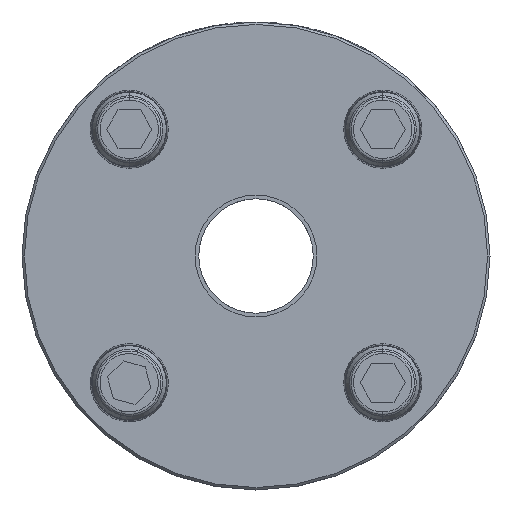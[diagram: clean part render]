
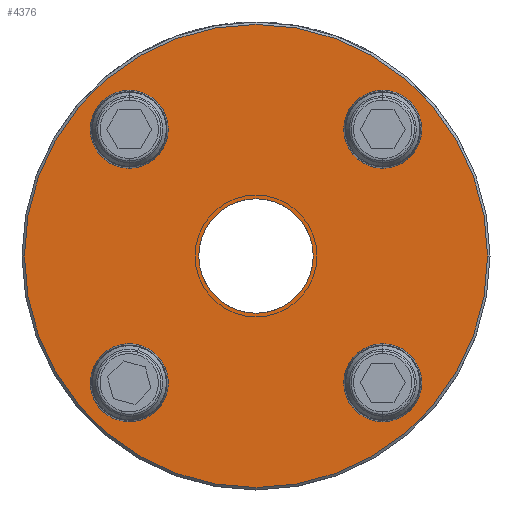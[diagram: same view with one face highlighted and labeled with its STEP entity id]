
A CAD part, front view. The second image highlights one B-rep face of the part: STEP entity #4376.
In plain terms, the highlighted planar face has unit normal (0, -1, 0).
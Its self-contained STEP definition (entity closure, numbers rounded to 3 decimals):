
#1=CARTESIAN_POINT('',(0.,0.,0.));
#2=DIRECTION('',(0.,-1.,0.));
#3=DIRECTION('',(0.,0.,1.));
#4=AXIS2_PLACEMENT_3D('',#1,#2,#3);
#6=CARTESIAN_POINT('',(0.,0.,0.));
#7=DIRECTION('',(0.,-1.,0.));
#8=DIRECTION('',(0.,0.,-1.));
#9=AXIS2_PLACEMENT_3D('',#6,#7,#8);
#11=CARTESIAN_POINT('',(0.,0.,0.));
#12=DIRECTION('',(0.,1.,0.));
#13=DIRECTION('',(1.,0.,0.));
#14=AXIS2_PLACEMENT_3D('',#11,#12,#13);
#16=CARTESIAN_POINT('',(0.,0.,0.));
#17=DIRECTION('',(0.,1.,0.));
#18=DIRECTION('',(-1.,0.,0.));
#19=AXIS2_PLACEMENT_3D('',#16,#17,#18);
#21=CARTESIAN_POINT('',(26.,0.,-26.));
#22=DIRECTION('',(0.,-1.,0.));
#23=DIRECTION('',(1.,0.,0.));
#24=AXIS2_PLACEMENT_3D('',#21,#22,#23);
#26=CARTESIAN_POINT('',(26.,0.,-26.));
#27=DIRECTION('',(0.,-1.,0.));
#28=DIRECTION('',(-1.,0.,0.));
#29=AXIS2_PLACEMENT_3D('',#26,#27,#28);
#31=CARTESIAN_POINT('',(-26.,0.,-26.));
#32=DIRECTION('',(0.,-1.,0.));
#33=DIRECTION('',(1.,0.,0.));
#34=AXIS2_PLACEMENT_3D('',#31,#32,#33);
#36=CARTESIAN_POINT('',(-26.,0.,-26.));
#37=DIRECTION('',(0.,-1.,0.));
#38=DIRECTION('',(-1.,0.,0.));
#39=AXIS2_PLACEMENT_3D('',#36,#37,#38);
#41=CARTESIAN_POINT('',(-26.,0.,26.));
#42=DIRECTION('',(0.,-1.,0.));
#43=DIRECTION('',(1.,0.,0.));
#44=AXIS2_PLACEMENT_3D('',#41,#42,#43);
#46=CARTESIAN_POINT('',(-26.,0.,26.));
#47=DIRECTION('',(0.,-1.,0.));
#48=DIRECTION('',(-1.,0.,0.));
#49=AXIS2_PLACEMENT_3D('',#46,#47,#48);
#51=CARTESIAN_POINT('',(26.,0.,26.));
#52=DIRECTION('',(0.,-1.,0.));
#53=DIRECTION('',(1.,0.,0.));
#54=AXIS2_PLACEMENT_3D('',#51,#52,#53);
#56=CARTESIAN_POINT('',(26.,0.,26.));
#57=DIRECTION('',(0.,-1.,0.));
#58=DIRECTION('',(-1.,0.,0.));
#59=AXIS2_PLACEMENT_3D('',#56,#57,#58);
#3675=CARTESIAN_POINT('',(-47.5,0.,0.));
#3676=VERTEX_POINT('',#3675);
#3677=CARTESIAN_POINT('',(47.5,0.,0.));
#3678=VERTEX_POINT('',#3677);
#4216=CARTESIAN_POINT('',(32.5,0.,-26.));
#4218=VERTEX_POINT('',#4216);
#4223=CARTESIAN_POINT('',(19.5,0.,-26.));
#4224=VERTEX_POINT('',#4223);
#4265=CARTESIAN_POINT('',(32.5,0.,26.));
#4266=VERTEX_POINT('',#4265);
#4267=CARTESIAN_POINT('',(19.5,0.,26.));
#4268=VERTEX_POINT('',#4267);
#4277=CARTESIAN_POINT('',(-19.5,0.,26.));
#4278=VERTEX_POINT('',#4277);
#4279=CARTESIAN_POINT('',(-32.5,0.,26.));
#4280=VERTEX_POINT('',#4279);
#4289=CARTESIAN_POINT('',(-19.5,0.,-26.));
#4290=VERTEX_POINT('',#4289);
#4291=CARTESIAN_POINT('',(-32.5,0.,-26.));
#4292=VERTEX_POINT('',#4291);
#4331=CARTESIAN_POINT('',(0.,0.,11.75));
#4332=CARTESIAN_POINT('',(0.,0.,-11.75));
#4333=VERTEX_POINT('',#4331);
#4334=VERTEX_POINT('',#4332);
#4335=CARTESIAN_POINT('',(0.,0.,0.));
#4336=DIRECTION('',(0.,-1.,0.));
#4337=DIRECTION('',(-1.,0.,0.));
#4338=AXIS2_PLACEMENT_3D('',#4335,#4336,#4337);
#4339=PLANE('',#4338);
#4341=ORIENTED_EDGE('',*,*,#4340,.T.);
#4343=ORIENTED_EDGE('',*,*,#4342,.T.);
#4344=EDGE_LOOP('',(#4341,#4343));
#4345=FACE_OUTER_BOUND('',#4344,.F.);
#4347=ORIENTED_EDGE('',*,*,#4346,.T.);
#4349=ORIENTED_EDGE('',*,*,#4348,.T.);
#4350=EDGE_LOOP('',(#4347,#4349));
#4351=FACE_BOUND('',#4350,.F.);
#4353=ORIENTED_EDGE('',*,*,#4352,.T.);
#4355=ORIENTED_EDGE('',*,*,#4354,.T.);
#4356=EDGE_LOOP('',(#4353,#4355));
#4357=FACE_BOUND('',#4356,.F.);
#4359=ORIENTED_EDGE('',*,*,#4358,.T.);
#4361=ORIENTED_EDGE('',*,*,#4360,.T.);
#4362=EDGE_LOOP('',(#4359,#4361));
#4363=FACE_BOUND('',#4362,.F.);
#4365=ORIENTED_EDGE('',*,*,#4364,.T.);
#4367=ORIENTED_EDGE('',*,*,#4366,.T.);
#4368=EDGE_LOOP('',(#4365,#4367));
#4369=FACE_BOUND('',#4368,.F.);
#4371=ORIENTED_EDGE('',*,*,#4370,.T.);
#4373=ORIENTED_EDGE('',*,*,#4372,.T.);
#4374=EDGE_LOOP('',(#4371,#4373));
#4375=FACE_BOUND('',#4374,.F.);
#4376=ADVANCED_FACE('',(#4345,#4351,#4357,#4363,#4369,#4375),#4339,.T.);
#5=CIRCLE('',#4,11.75);
#10=CIRCLE('',#9,11.75);
#15=CIRCLE('',#14,47.5);
#20=CIRCLE('',#19,47.5);
#25=CIRCLE('',#24,6.5);
#30=CIRCLE('',#29,6.5);
#35=CIRCLE('',#34,6.5);
#40=CIRCLE('',#39,6.5);
#45=CIRCLE('',#44,6.5);
#50=CIRCLE('',#49,6.5);
#55=CIRCLE('',#54,6.5);
#60=CIRCLE('',#59,6.5);
#4340=EDGE_CURVE('',#3678,#3676,#15,.T.);
#4342=EDGE_CURVE('',#3676,#3678,#20,.T.);
#4346=EDGE_CURVE('',#4333,#4334,#5,.T.);
#4348=EDGE_CURVE('',#4334,#4333,#10,.T.);
#4352=EDGE_CURVE('',#4218,#4224,#25,.T.);
#4354=EDGE_CURVE('',#4224,#4218,#30,.T.);
#4358=EDGE_CURVE('',#4290,#4292,#35,.T.);
#4360=EDGE_CURVE('',#4292,#4290,#40,.T.);
#4364=EDGE_CURVE('',#4278,#4280,#45,.T.);
#4366=EDGE_CURVE('',#4280,#4278,#50,.T.);
#4370=EDGE_CURVE('',#4266,#4268,#55,.T.);
#4372=EDGE_CURVE('',#4268,#4266,#60,.T.);
